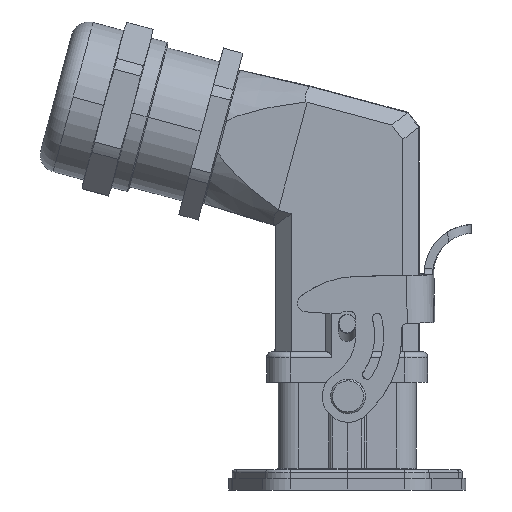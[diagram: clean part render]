
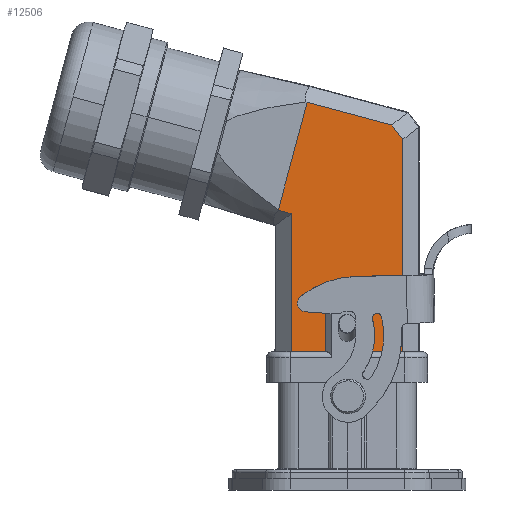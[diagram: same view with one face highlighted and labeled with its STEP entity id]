
A CAD part, left-side view. The second image highlights one B-rep face of the part: STEP entity #12506.
In plain terms, the highlighted planar face has unit normal (-1, 0, 0) as drawn and (0, 0, -1) by its records, which use the part's own axes.
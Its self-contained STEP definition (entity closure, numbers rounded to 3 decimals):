
#5733=PLANE('',#31732);
#6568=B_SPLINE_CURVE_WITH_KNOTS('',3,(#50603,#50604,#50605,#50606),
 .UNSPECIFIED.,.F.,.F.,(4,4),(0.,1.),.UNSPECIFIED.);
#8958=LINE('',#50596,#11073);
#8959=LINE('',#50599,#11074);
#8960=LINE('',#50601,#11075);
#8961=LINE('',#50608,#11076);
#8962=LINE('',#50610,#11077);
#8963=LINE('',#50612,#11078);
#8964=LINE('',#50614,#11079);
#8965=LINE('',#50618,#11080);
#8966=LINE('',#50620,#11081);
#8967=LINE('',#50622,#11082);
#11073=VECTOR('',#38075,1.);
#11074=VECTOR('',#38076,1.);
#11075=VECTOR('',#38077,1.);
#11076=VECTOR('',#38078,1.);
#11077=VECTOR('',#38079,1.);
#11078=VECTOR('',#38080,1.);
#11079=VECTOR('',#38081,1.);
#11080=VECTOR('',#38084,1.);
#11081=VECTOR('',#38085,1.);
#11082=VECTOR('',#38086,1.);
#12506=ADVANCED_FACE('',(#13835),#5733,.F.);
#13835=FACE_OUTER_BOUND('',#15347,.T.);
#15347=EDGE_LOOP('',(#22036,#22037,#22038,#22039,#22040,#22041,#22042,#22043,
#22044,#22045,#22046,#22047));
#22036=ORIENTED_EDGE('',*,*,#28387,.F.);
#22037=ORIENTED_EDGE('',*,*,#28388,.F.);
#22038=ORIENTED_EDGE('',*,*,#28389,.F.);
#22039=ORIENTED_EDGE('',*,*,#28390,.F.);
#22040=ORIENTED_EDGE('',*,*,#28391,.F.);
#22041=ORIENTED_EDGE('',*,*,#28392,.F.);
#22042=ORIENTED_EDGE('',*,*,#28393,.F.);
#22043=ORIENTED_EDGE('',*,*,#28394,.F.);
#22044=ORIENTED_EDGE('',*,*,#28395,.F.);
#22045=ORIENTED_EDGE('',*,*,#28396,.F.);
#22046=ORIENTED_EDGE('',*,*,#28397,.F.);
#22047=ORIENTED_EDGE('',*,*,#28398,.F.);
#24903=VERTEX_POINT('',#50597);
#24904=VERTEX_POINT('',#50598);
#24905=VERTEX_POINT('',#50600);
#24906=VERTEX_POINT('',#50602);
#24907=VERTEX_POINT('',#50607);
#24908=VERTEX_POINT('',#50609);
#24909=VERTEX_POINT('',#50611);
#24910=VERTEX_POINT('',#50613);
#24911=VERTEX_POINT('',#50615);
#24912=VERTEX_POINT('',#50617);
#24913=VERTEX_POINT('',#50619);
#24914=VERTEX_POINT('',#50621);
#28387=EDGE_CURVE('',#24903,#24904,#8958,.T.);
#28388=EDGE_CURVE('',#24905,#24903,#8959,.T.);
#28389=EDGE_CURVE('',#24906,#24905,#8960,.T.);
#28390=EDGE_CURVE('',#24907,#24906,#6568,.T.);
#28391=EDGE_CURVE('',#24908,#24907,#8961,.T.);
#28392=EDGE_CURVE('',#24909,#24908,#8962,.T.);
#28393=EDGE_CURVE('',#24910,#24909,#8963,.T.);
#28394=EDGE_CURVE('',#24911,#24910,#8964,.T.);
#28395=EDGE_CURVE('',#24912,#24911,#29563,.T.);
#28396=EDGE_CURVE('',#24913,#24912,#8965,.T.);
#28397=EDGE_CURVE('',#24914,#24913,#8966,.T.);
#28398=EDGE_CURVE('',#24904,#24914,#8967,.T.);
#29563=CIRCLE('',#31731,3.75);
#31731=AXIS2_PLACEMENT_3D('',#50616,#38082,#38083);
#31732=AXIS2_PLACEMENT_3D('',#50623,#38087,#38088);
#38075=DIRECTION('',(-0.609,-0.793,0.));
#38076=DIRECTION('',(-0.966,-0.259,0.));
#38077=DIRECTION('',(-0.259,0.966,0.));
#38078=DIRECTION('',(0.966,0.259,0.));
#38079=DIRECTION('',(0.,1.,0.));
#38080=DIRECTION('',(1.,0.,0.));
#38081=DIRECTION('',(0.,-1.,0.));
#38082=DIRECTION('',(0.,0.,-1.));
#38083=DIRECTION('',(1.,0.,0.));
#38084=DIRECTION('',(0.,1.,0.));
#38085=DIRECTION('',(1.,0.,0.));
#38086=DIRECTION('',(0.,-1.,0.));
#38087=DIRECTION('',(0.,0.,1.));
#38088=DIRECTION('',(1.,0.,0.));
#50596=CARTESIAN_POINT('',(-7.709,44.661,-12.5));
#50597=CARTESIAN_POINT('',(-7.709,44.661,-12.5));
#50598=CARTESIAN_POINT('',(-9.641,42.143,-12.5));
#50599=CARTESIAN_POINT('',(6.966,48.593,-12.5));
#50600=CARTESIAN_POINT('',(6.966,48.593,-12.5));
#50601=CARTESIAN_POINT('',(11.984,29.867,-12.5));
#50602=CARTESIAN_POINT('',(11.984,29.867,-12.5));
#50603=CARTESIAN_POINT('',(11.975,29.86,-12.5));
#50604=CARTESIAN_POINT('',(11.978,29.862,-12.5));
#50605=CARTESIAN_POINT('',(11.981,29.865,-12.5));
#50606=CARTESIAN_POINT('',(11.984,29.867,-12.5));
#50607=CARTESIAN_POINT('',(11.975,29.86,-12.5));
#50608=CARTESIAN_POINT('',(9.75,29.264,-12.5));
#50609=CARTESIAN_POINT('',(9.75,29.264,-12.5));
#50610=CARTESIAN_POINT('',(9.75,0.,-12.5));
#50611=CARTESIAN_POINT('',(9.75,5.3,-12.5));
#50612=CARTESIAN_POINT('',(0.,5.3,-12.5));
#50613=CARTESIAN_POINT('',(3.75,5.3,-12.5));
#50614=CARTESIAN_POINT('',(3.75,0.,-12.5));
#50615=CARTESIAN_POINT('',(3.75,14.25,-12.5));
#50616=CARTESIAN_POINT('',(0.,14.25,-12.5));
#50617=CARTESIAN_POINT('',(-3.75,14.25,-12.5));
#50618=CARTESIAN_POINT('',(-3.75,0.,-12.5));
#50619=CARTESIAN_POINT('',(-3.75,5.3,-12.5));
#50620=CARTESIAN_POINT('',(0.,5.3,-12.5));
#50621=CARTESIAN_POINT('',(-9.641,5.3,-12.5));
#50622=CARTESIAN_POINT('',(-9.641,0.,-12.5));
#50623=CARTESIAN_POINT('',(0.,0.,-12.5));
